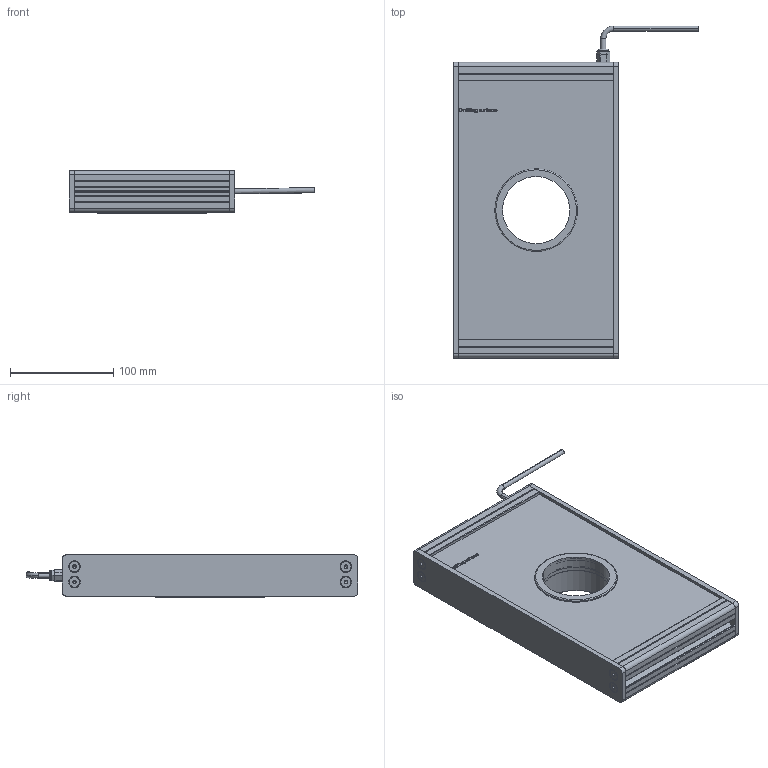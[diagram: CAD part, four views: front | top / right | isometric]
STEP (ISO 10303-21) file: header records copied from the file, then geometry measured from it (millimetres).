
FILE_DESCRIPTION (( 'STEP AP214' ), '1' );
FILE_NAME ('EFFI-FD-150T-250-M12 Ø65.STEP', '2021-07-02T12:12:11', ( '' ), ( '' ), 'SwSTEP 2.0', 'SolidWorks 2021', '' );
FILE_SCHEMA (( 'AUTOMOTIVE_DESIGN' ));
Length unit declared in the file: millimetre
Products named in the file (11): bord fin modif_lg 436.5 mm; cordon_Avec cable; profile modif_lg 99.5 mm; Assemblage Ø65; 004409; 003776; EFFI-FD-150T-250-M12 Ø65; 004408; Pièce2^EFFI-FD-XXXT-YYY-M12 Ø65; 000590
Assembly tree (20 placements, depth 3):
  EFFI-FD-150T-250-M12 Ø65
    profile modif_lg 99.5 mm
    bord fin modif_lg 436.5 mm  x2
    Pièce2^EFFI-FD-XXXT-YYY-M12 Ø65
    profile modif_lg 99.5 mm
    003776  x8
    cordon_Avec cable
    Assemblage Ø65
      004408
      004409
      000590  x3
Bounding box: 237.13 x 321.15 x 41 mm (x, y, z)
Volume: 1493032.4 mm3; surface area: 244705.5 mm2
Topology: 18 solids, 24 shells, 1002 faces, 2513 edges, 1575 vertices
Faces by surface type: plane 392, cylinder 233, bspline 180, cone 154, torus 35, sphere 8
Entity records: 25569 total; most frequent: CARTESIAN_POINT 8641, ORIENTED_EDGE 3310, DIRECTION 3055, EDGE_CURVE 1659, VERTEX_POINT 1072, AXIS2_PLACEMENT_3D 1032, LINE 991, VECTOR 991
